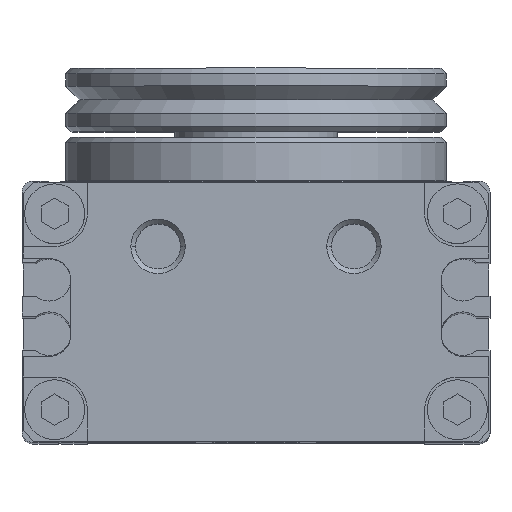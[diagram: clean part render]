
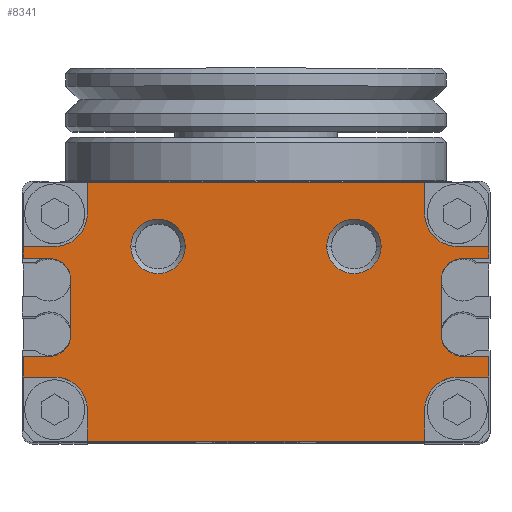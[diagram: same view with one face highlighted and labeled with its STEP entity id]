
A CAD part, top view. The second image highlights one B-rep face of the part: STEP entity #8341.
In plain terms, the highlighted planar face has unit normal (0, 0, 1).
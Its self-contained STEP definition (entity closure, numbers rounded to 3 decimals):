
#1800=DIRECTION('',(1.,0.,0.));
#1801=VECTOR('',#1800,2.9);
#1802=CARTESIAN_POINT('',(-21.4,6.,49.));
#1803=LINE('',#1802,#1801);
#1807=CARTESIAN_POINT('',(-18.5,9.,49.));
#1808=DIRECTION('',(0.,0.,1.));
#1809=DIRECTION('',(0.,-1.,0.));
#1810=AXIS2_PLACEMENT_3D('',#1807,#1808,#1809);
#1815=DIRECTION('',(0.,-1.,0.));
#1816=VECTOR('',#1815,2.9);
#1817=CARTESIAN_POINT('',(-15.5,11.9,49.));
#1818=LINE('',#1817,#1816);
#1822=DIRECTION('',(-1.,0.,0.));
#1823=VECTOR('',#1822,31.);
#1824=CARTESIAN_POINT('',(15.5,11.9,49.));
#1825=LINE('',#1824,#1823);
#1829=DIRECTION('',(0.,-1.,0.));
#1830=VECTOR('',#1829,2.9);
#1831=CARTESIAN_POINT('',(15.5,11.9,49.));
#1832=LINE('',#1831,#1830);
#1836=CARTESIAN_POINT('',(18.5,9.,49.));
#1837=DIRECTION('',(0.,0.,1.));
#1838=DIRECTION('',(-1.,0.,0.));
#1839=AXIS2_PLACEMENT_3D('',#1836,#1837,#1838);
#1844=DIRECTION('',(-1.,0.,0.));
#1845=VECTOR('',#1844,2.9);
#1846=CARTESIAN_POINT('',(21.4,6.,49.));
#1847=LINE('',#1846,#1845);
#1851=DIRECTION('',(0.,1.,0.));
#1852=VECTOR('',#1851,1.1);
#1853=CARTESIAN_POINT('',(21.4,4.9,49.));
#1854=LINE('',#1853,#1852);
#1858=DIRECTION('',(1.,0.,0.));
#1859=VECTOR('',#1858,2.4);
#1860=CARTESIAN_POINT('',(19.,4.9,49.));
#1861=LINE('',#1860,#1859);
#1865=CARTESIAN_POINT('',(19.,2.9,49.));
#1866=DIRECTION('',(0.,0.,-1.));
#1867=DIRECTION('',(-1.,0.,0.));
#1868=AXIS2_PLACEMENT_3D('',#1865,#1866,#1867);
#1873=DIRECTION('',(0.,1.,0.));
#1874=VECTOR('',#1873,5.);
#1875=CARTESIAN_POINT('',(17.,-2.1,49.));
#1876=LINE('',#1875,#1874);
#1880=CARTESIAN_POINT('',(19.,-2.1,49.));
#1881=DIRECTION('',(0.,0.,-1.));
#1882=DIRECTION('',(0.,-1.,0.));
#1883=AXIS2_PLACEMENT_3D('',#1880,#1881,#1882);
#1888=DIRECTION('',(-1.,0.,0.));
#1889=VECTOR('',#1888,2.4);
#1890=CARTESIAN_POINT('',(21.4,-4.1,49.));
#1891=LINE('',#1890,#1889);
#1895=DIRECTION('',(0.,1.,0.));
#1896=VECTOR('',#1895,1.9);
#1897=CARTESIAN_POINT('',(21.4,-6.,49.));
#1898=LINE('',#1897,#1896);
#1902=DIRECTION('',(-1.,0.,0.));
#1903=VECTOR('',#1902,2.9);
#1904=CARTESIAN_POINT('',(21.4,-6.,49.));
#1905=LINE('',#1904,#1903);
#1909=CARTESIAN_POINT('',(18.5,-9.,49.));
#1910=DIRECTION('',(0.,0.,1.));
#1911=DIRECTION('',(0.,1.,0.));
#1912=AXIS2_PLACEMENT_3D('',#1909,#1910,#1911);
#1917=DIRECTION('',(0.,1.,0.));
#1918=VECTOR('',#1917,2.9);
#1919=CARTESIAN_POINT('',(15.5,-11.9,49.));
#1920=LINE('',#1919,#1918);
#1924=DIRECTION('',(1.,0.,0.));
#1925=VECTOR('',#1924,31.);
#1926=CARTESIAN_POINT('',(-15.5,-11.9,49.));
#1927=LINE('',#1926,#1925);
#1931=DIRECTION('',(0.,1.,0.));
#1932=VECTOR('',#1931,2.9);
#1933=CARTESIAN_POINT('',(-15.5,-11.9,49.));
#1934=LINE('',#1933,#1932);
#1938=CARTESIAN_POINT('',(-18.5,-9.,49.));
#1939=DIRECTION('',(0.,0.,1.));
#1940=DIRECTION('',(1.,0.,0.));
#1941=AXIS2_PLACEMENT_3D('',#1938,#1939,#1940);
#1946=DIRECTION('',(1.,0.,0.));
#1947=VECTOR('',#1946,2.9);
#1948=CARTESIAN_POINT('',(-21.4,-6.,49.));
#1949=LINE('',#1948,#1947);
#1953=DIRECTION('',(0.,-1.,0.));
#1954=VECTOR('',#1953,1.9);
#1955=CARTESIAN_POINT('',(-21.4,-4.1,49.));
#1956=LINE('',#1955,#1954);
#1960=DIRECTION('',(-1.,0.,0.));
#1961=VECTOR('',#1960,2.4);
#1962=CARTESIAN_POINT('',(-19.,-4.1,49.));
#1963=LINE('',#1962,#1961);
#1967=CARTESIAN_POINT('',(-19.,-2.1,49.));
#1968=DIRECTION('',(0.,0.,-1.));
#1969=DIRECTION('',(1.,0.,0.));
#1970=AXIS2_PLACEMENT_3D('',#1967,#1968,#1969);
#1975=DIRECTION('',(0.,-1.,0.));
#1976=VECTOR('',#1975,5.);
#1977=CARTESIAN_POINT('',(-17.,2.9,49.));
#1978=LINE('',#1977,#1976);
#1982=CARTESIAN_POINT('',(-19.,2.9,49.));
#1983=DIRECTION('',(0.,0.,-1.));
#1984=DIRECTION('',(0.,1.,0.));
#1985=AXIS2_PLACEMENT_3D('',#1982,#1983,#1984);
#1990=DIRECTION('',(1.,0.,0.));
#1991=VECTOR('',#1990,2.4);
#1992=CARTESIAN_POINT('',(-21.4,4.9,49.));
#1993=LINE('',#1992,#1991);
#1997=DIRECTION('',(0.,-1.,0.));
#1998=VECTOR('',#1997,1.1);
#1999=CARTESIAN_POINT('',(-21.4,6.,49.));
#2000=LINE('',#1999,#1998);
#4305=CARTESIAN_POINT('',(-9.,6.,49.));
#4306=DIRECTION('',(0.,0.,1.));
#4307=DIRECTION('',(1.,0.,0.));
#4308=AXIS2_PLACEMENT_3D('',#4305,#4306,#4307);
#4321=CARTESIAN_POINT('',(-9.,6.,49.));
#4322=DIRECTION('',(0.,0.,1.));
#4323=DIRECTION('',(-1.,0.,0.));
#4324=AXIS2_PLACEMENT_3D('',#4321,#4322,#4323);
#4404=CARTESIAN_POINT('',(9.,6.,49.));
#4405=DIRECTION('',(0.,0.,1.));
#4406=DIRECTION('',(1.,0.,0.));
#4407=AXIS2_PLACEMENT_3D('',#4404,#4405,#4406);
#4420=CARTESIAN_POINT('',(9.,6.,49.));
#4421=DIRECTION('',(0.,0.,1.));
#4422=DIRECTION('',(-1.,0.,0.));
#4423=AXIS2_PLACEMENT_3D('',#4420,#4421,#4422);
#6547=CARTESIAN_POINT('',(-21.4,4.9,49.));
#6548=CARTESIAN_POINT('',(-19.,4.9,49.));
#6549=VERTEX_POINT('',#6547);
#6550=VERTEX_POINT('',#6548);
#6551=CARTESIAN_POINT('',(-17.,2.9,49.));
#6552=VERTEX_POINT('',#6551);
#6553=CARTESIAN_POINT('',(-17.,-2.1,49.));
#6554=VERTEX_POINT('',#6553);
#6555=CARTESIAN_POINT('',(-19.,-4.1,49.));
#6556=VERTEX_POINT('',#6555);
#6557=CARTESIAN_POINT('',(-21.4,-4.1,49.));
#6558=VERTEX_POINT('',#6557);
#6559=CARTESIAN_POINT('',(21.4,-4.1,49.));
#6560=CARTESIAN_POINT('',(19.,-4.1,49.));
#6561=VERTEX_POINT('',#6559);
#6562=VERTEX_POINT('',#6560);
#6563=CARTESIAN_POINT('',(17.,-2.1,49.));
#6564=VERTEX_POINT('',#6563);
#6565=CARTESIAN_POINT('',(17.,2.9,49.));
#6566=VERTEX_POINT('',#6565);
#6567=CARTESIAN_POINT('',(19.,4.9,49.));
#6568=VERTEX_POINT('',#6567);
#6569=CARTESIAN_POINT('',(21.4,4.9,49.));
#6570=VERTEX_POINT('',#6569);
#6627=CARTESIAN_POINT('',(-21.4,6.,49.));
#6628=CARTESIAN_POINT('',(-18.5,6.,49.));
#6629=VERTEX_POINT('',#6627);
#6630=VERTEX_POINT('',#6628);
#6631=CARTESIAN_POINT('',(-15.5,9.,49.));
#6632=VERTEX_POINT('',#6631);
#6633=CARTESIAN_POINT('',(-15.5,11.9,49.));
#6634=VERTEX_POINT('',#6633);
#6635=CARTESIAN_POINT('',(-15.5,-11.9,49.));
#6636=CARTESIAN_POINT('',(-15.5,-9.,49.));
#6637=VERTEX_POINT('',#6635);
#6638=VERTEX_POINT('',#6636);
#6639=CARTESIAN_POINT('',(-18.5,-6.,49.));
#6640=VERTEX_POINT('',#6639);
#6641=CARTESIAN_POINT('',(-21.4,-6.,49.));
#6642=VERTEX_POINT('',#6641);
#6643=CARTESIAN_POINT('',(15.5,11.9,49.));
#6644=CARTESIAN_POINT('',(15.5,9.,49.));
#6645=VERTEX_POINT('',#6643);
#6646=VERTEX_POINT('',#6644);
#6647=CARTESIAN_POINT('',(18.5,6.,49.));
#6648=VERTEX_POINT('',#6647);
#6649=CARTESIAN_POINT('',(21.4,6.,49.));
#6650=VERTEX_POINT('',#6649);
#6651=CARTESIAN_POINT('',(21.4,-6.,49.));
#6652=CARTESIAN_POINT('',(18.5,-6.,49.));
#6653=VERTEX_POINT('',#6651);
#6654=VERTEX_POINT('',#6652);
#6655=CARTESIAN_POINT('',(15.5,-9.,49.));
#6656=VERTEX_POINT('',#6655);
#6657=CARTESIAN_POINT('',(15.5,-11.9,49.));
#6658=VERTEX_POINT('',#6657);
#6891=CARTESIAN_POINT('',(11.5,6.,49.));
#6892=CARTESIAN_POINT('',(6.5,6.,49.));
#6893=VERTEX_POINT('',#6891);
#6894=VERTEX_POINT('',#6892);
#6899=CARTESIAN_POINT('',(-6.5,6.,49.));
#6900=CARTESIAN_POINT('',(-11.5,6.,49.));
#6901=VERTEX_POINT('',#6899);
#6902=VERTEX_POINT('',#6900);
#8268=CARTESIAN_POINT('',(0.,0.,49.));
#8269=DIRECTION('',(0.,0.,1.));
#8270=DIRECTION('',(1.,0.,0.));
#8271=AXIS2_PLACEMENT_3D('',#8268,#8269,#8270);
#8272=PLANE('',#8271);
#8274=ORIENTED_EDGE('',*,*,#8273,.T.);
#8276=ORIENTED_EDGE('',*,*,#8275,.T.);
#8277=ORIENTED_EDGE('',*,*,#8247,.F.);
#8278=ORIENTED_EDGE('',*,*,#7457,.F.);
#8280=ORIENTED_EDGE('',*,*,#8279,.T.);
#8282=ORIENTED_EDGE('',*,*,#8281,.T.);
#8284=ORIENTED_EDGE('',*,*,#8283,.F.);
#8286=ORIENTED_EDGE('',*,*,#8285,.F.);
#8288=ORIENTED_EDGE('',*,*,#8287,.F.);
#8290=ORIENTED_EDGE('',*,*,#8289,.F.);
#8292=ORIENTED_EDGE('',*,*,#8291,.F.);
#8294=ORIENTED_EDGE('',*,*,#8293,.F.);
#8296=ORIENTED_EDGE('',*,*,#8295,.F.);
#8298=ORIENTED_EDGE('',*,*,#8297,.F.);
#8300=ORIENTED_EDGE('',*,*,#8299,.T.);
#8302=ORIENTED_EDGE('',*,*,#8301,.T.);
#8304=ORIENTED_EDGE('',*,*,#8303,.F.);
#8306=ORIENTED_EDGE('',*,*,#8305,.F.);
#8308=ORIENTED_EDGE('',*,*,#8307,.T.);
#8310=ORIENTED_EDGE('',*,*,#8309,.T.);
#8312=ORIENTED_EDGE('',*,*,#8311,.F.);
#8314=ORIENTED_EDGE('',*,*,#8313,.F.);
#8316=ORIENTED_EDGE('',*,*,#8315,.F.);
#8318=ORIENTED_EDGE('',*,*,#8317,.F.);
#8320=ORIENTED_EDGE('',*,*,#8319,.F.);
#8322=ORIENTED_EDGE('',*,*,#8321,.F.);
#8324=ORIENTED_EDGE('',*,*,#8323,.F.);
#8326=ORIENTED_EDGE('',*,*,#8325,.F.);
#8327=EDGE_LOOP('',(#8274,#8276,#8277,#8278,#8280,#8282,#8284,#8286,#8288,#8290,
#8292,#8294,#8296,#8298,#8300,#8302,#8304,#8306,#8308,#8310,#8312,#8314,#8316,
#8318,#8320,#8322,#8324,#8326));
#8328=FACE_OUTER_BOUND('',#8327,.F.);
#8330=ORIENTED_EDGE('',*,*,#8329,.T.);
#8332=ORIENTED_EDGE('',*,*,#8331,.T.);
#8333=EDGE_LOOP('',(#8330,#8332));
#8334=FACE_BOUND('',#8333,.F.);
#8336=ORIENTED_EDGE('',*,*,#8335,.T.);
#8338=ORIENTED_EDGE('',*,*,#8337,.T.);
#8339=EDGE_LOOP('',(#8336,#8338));
#8340=FACE_BOUND('',#8339,.F.);
#8341=ADVANCED_FACE('',(#8328,#8334,#8340),#8272,.T.);
#1811=CIRCLE('',#1810,3.);
#1840=CIRCLE('',#1839,3.);
#1869=CIRCLE('',#1868,2.);
#1884=CIRCLE('',#1883,2.);
#1913=CIRCLE('',#1912,3.);
#1942=CIRCLE('',#1941,3.);
#1971=CIRCLE('',#1970,2.);
#1986=CIRCLE('',#1985,2.);
#4309=CIRCLE('',#4308,2.5);
#4325=CIRCLE('',#4324,2.5);
#4408=CIRCLE('',#4407,2.5);
#4424=CIRCLE('',#4423,2.5);
#7457=EDGE_CURVE('',#6645,#6634,#1825,.T.);
#8247=EDGE_CURVE('',#6634,#6632,#1818,.T.);
#8273=EDGE_CURVE('',#6629,#6630,#1803,.T.);
#8275=EDGE_CURVE('',#6630,#6632,#1811,.T.);
#8279=EDGE_CURVE('',#6645,#6646,#1832,.T.);
#8281=EDGE_CURVE('',#6646,#6648,#1840,.T.);
#8283=EDGE_CURVE('',#6650,#6648,#1847,.T.);
#8285=EDGE_CURVE('',#6570,#6650,#1854,.T.);
#8287=EDGE_CURVE('',#6568,#6570,#1861,.T.);
#8289=EDGE_CURVE('',#6566,#6568,#1869,.T.);
#8291=EDGE_CURVE('',#6564,#6566,#1876,.T.);
#8293=EDGE_CURVE('',#6562,#6564,#1884,.T.);
#8295=EDGE_CURVE('',#6561,#6562,#1891,.T.);
#8297=EDGE_CURVE('',#6653,#6561,#1898,.T.);
#8299=EDGE_CURVE('',#6653,#6654,#1905,.T.);
#8301=EDGE_CURVE('',#6654,#6656,#1913,.T.);
#8303=EDGE_CURVE('',#6658,#6656,#1920,.T.);
#8305=EDGE_CURVE('',#6637,#6658,#1927,.T.);
#8307=EDGE_CURVE('',#6637,#6638,#1934,.T.);
#8309=EDGE_CURVE('',#6638,#6640,#1942,.T.);
#8311=EDGE_CURVE('',#6642,#6640,#1949,.T.);
#8313=EDGE_CURVE('',#6558,#6642,#1956,.T.);
#8315=EDGE_CURVE('',#6556,#6558,#1963,.T.);
#8317=EDGE_CURVE('',#6554,#6556,#1971,.T.);
#8319=EDGE_CURVE('',#6552,#6554,#1978,.T.);
#8321=EDGE_CURVE('',#6550,#6552,#1986,.T.);
#8323=EDGE_CURVE('',#6549,#6550,#1993,.T.);
#8325=EDGE_CURVE('',#6629,#6549,#2000,.T.);
#8329=EDGE_CURVE('',#6901,#6902,#4309,.T.);
#8331=EDGE_CURVE('',#6902,#6901,#4325,.T.);
#8335=EDGE_CURVE('',#6893,#6894,#4408,.T.);
#8337=EDGE_CURVE('',#6894,#6893,#4424,.T.);
